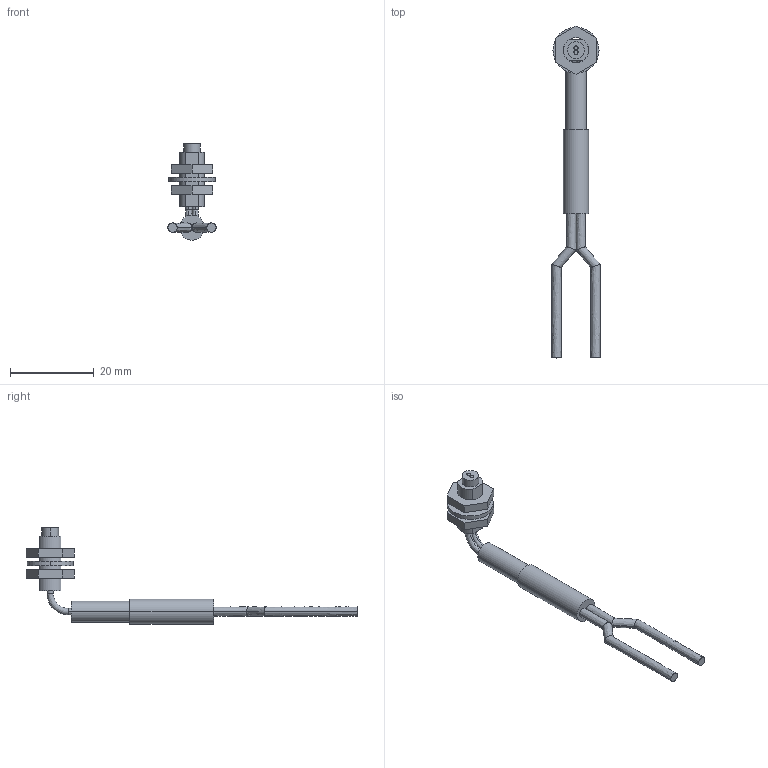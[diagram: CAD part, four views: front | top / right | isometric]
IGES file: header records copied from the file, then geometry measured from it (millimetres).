
Start section: SolidWorks IGES FILE using analytic representation for surfaces
Global section: file name: C:\Documents and Settings\yk0651\デスクトップ\3D_catalog_050904\0_IGES\FD-R80.IGS; native system: SolidWorks 2004 by SolidWorks Corporation; preprocessor: Version 5.3; author: yk0651; date: 050904.191646; units: millimetre
Bounding box: 11.49 x 79.25 x 23 mm (x, y, z)
Volume: 1804.6 mm3; surface area: 2176.9 mm2
Topology: 5 solids, 5 shells, 77 faces, 165 edges, 106 vertices
Faces by surface type: revolution 45, plane 32
